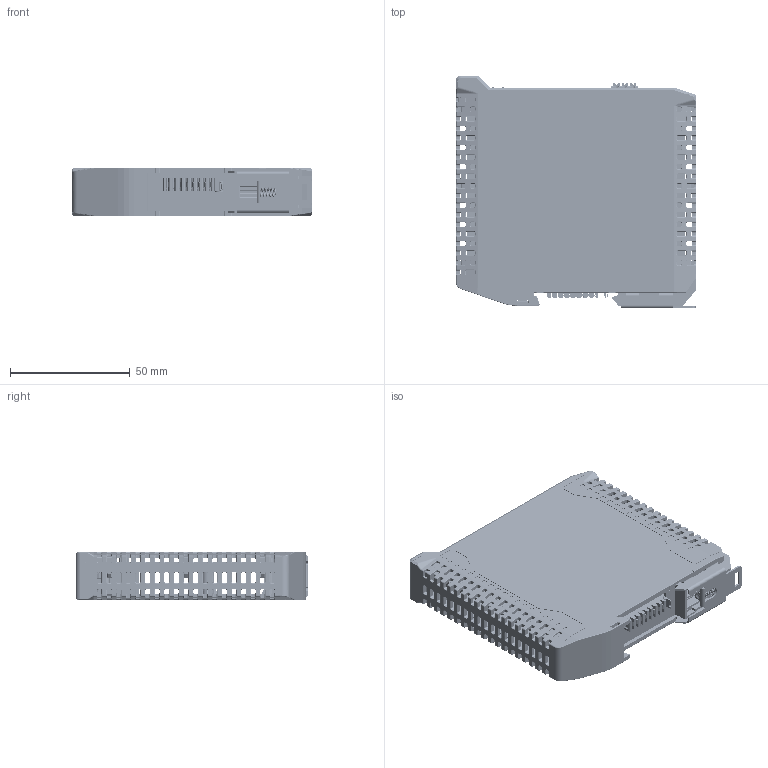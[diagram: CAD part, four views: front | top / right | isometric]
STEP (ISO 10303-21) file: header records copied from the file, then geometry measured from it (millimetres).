
FILE_DESCRIPTION((''),'2;1');
FILE_NAME('DAUDIN_GF2-C001T_ASM','2023-06-28T',('Rex.Song'),(''),'CREO PARAMETRIC BY PTC INC, 2015480','CREO PARAMETRIC BY PTC INC, 2015480','');
FILE_SCHEMA(('CONFIG_CONTROL_DESIGN'));
Products named in the file (17): 0173AL4800_AF0; 0173A00200; 0173A00200_AF0; 0173B02100; C000004600_AF0; PCB_BS-5319D; 0173AL4900_AF0; BS-5319D_AF0_ASM; RJ45_1_AF0; RJ45_1_AF1; DINKLE_0138-5103; BS-5319D-S15377_AF0_ASM; DINKLE_FZ01_BS-5316_1_1_1_2_3_3; DINKLE_FZ01_BS-5316_1_1_1_2_3_5; DINKLE_FZ01_BS-5316_1_1_1_2_3_4_ASM; DINKLE_BS-100_1; DAUDIN_GF2-C001T_ASM
Assembly tree (16 placements, depth 4):
  DAUDIN_GF2-C001T_ASM
    BS-5319D-S15377_AF0_ASM
      BS-5319D_AF0_ASM
        0173AL4800_AF0
        0173A00200
        0173A00200_AF0
        0173B02100
        C000004600_AF0
        PCB_BS-5319D
        0173AL4900_AF0
      RJ45_1_AF0
      RJ45_1_AF1
      DINKLE_0138-5103
    DINKLE_FZ01_BS-5316_1_1_1_2_3_4_ASM
      DINKLE_FZ01_BS-5316_1_1_1_2_3_3
      DINKLE_FZ01_BS-5316_1_1_1_2_3_5
    DINKLE_BS-100_1
Bounding box: 100 x 97 x 20 mm (x, y, z)
Volume: 44843.8 mm3; surface area: 77688.4 mm2
Topology: 14 solids, 25 shells, 9576 faces, 28182 edges, 19946 vertices
Faces by surface type: plane 3894, cylinder 3334, extrusion 949, bspline 635, torus 560, cone 107, sphere 97
Entity records: 411580 total; most frequent: CARTESIAN_POINT 145276, ORIENTED_EDGE 50789, DIRECTION 46219, EDGE_CURVE 25455, VECTOR 17715, LINE 16766, VERTEX_POINT 16053, AXIS2_PLACEMENT_3D 14252
